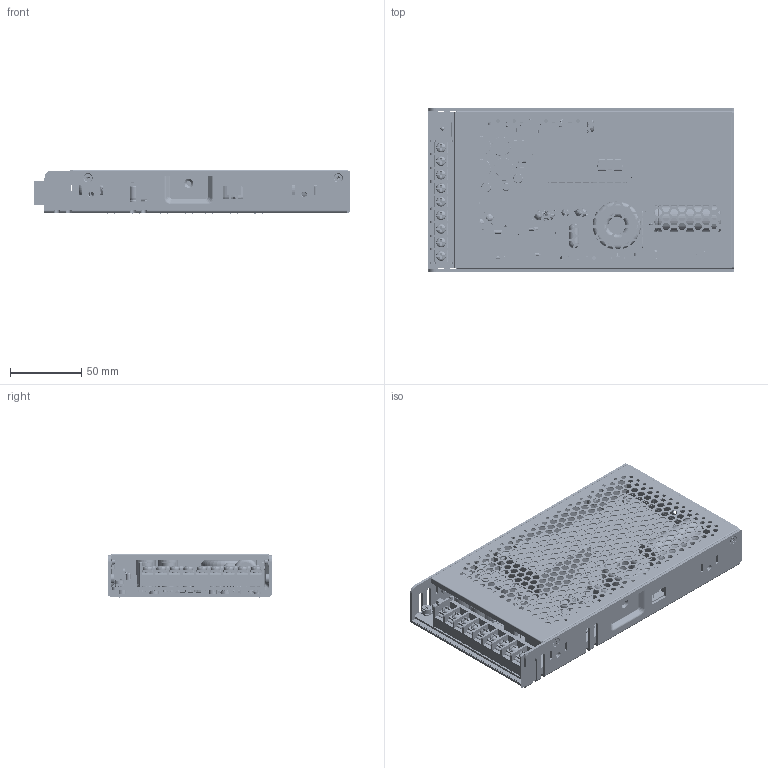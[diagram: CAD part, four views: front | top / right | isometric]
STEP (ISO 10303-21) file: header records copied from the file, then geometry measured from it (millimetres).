
FILE_DESCRIPTION((''),'2;1');
FILE_NAME('ERS200CW_P2-20250731','2025-07-31T',('Administrator'),(''),'PRO/ENGINEER BY PARAMETRIC TECHNOLOGY CORPORATION, 2014090','PRO/ENGINEER BY PARAMETRIC TECHNOLOGY CORPORATION, 2014090','');
FILE_SCHEMA(('CONFIG_CONTROL_DESIGN'));
Products named in the file (564): GW-PB350AW-BOTTOM_15_7; LZ_3X6_2_6_A; GW-ICPS350W24AA-BOTTOM_ASM_4_AS; PRT0212_2_A; ASM1269_ASM_1_ASM_A; MANIFOLD_SOLID_BREP_15524_1_A; MANIFOLD_SOLID_BREP_16245_1_A; ASM1271_ASM_1_ASM_A; ASM1270_ASM_1_ASM_A; MANIFOLD_SOLID_BREP_122681_2_A; MANIFOLD_SOLID_BREP_123402_2_A; DPAK_ASM_2_ASM_A; ASM1272_ASM_1_ASM_A; DPAK_ASM_2_ASM1_A; ASM1273_ASM_1_ASM_A; MANIFOLD_SOLID_BREP_20172_1_A; _X2_56FE5757_X0__06_A; MANIFOLD_SOLID_BREP_20454_1_A; ASM1275_ASM_1_ASM_A; ASM1274_ASM_1_ASM_A; MANIFOLD_SOLID_BREP_26347_1_A; MANIFOLD_SOLID_BREP_26629_1_A; ASM1277_ASM_1_ASM_A; ASM1276_ASM_1_ASM_A; MANIFOLD_SOLID_BREP_32953_1_A; MANIFOLD_SOLID_BREP_33340_1_A; S1-59307; S1-59308; _X2_56FE5757_X0__01_A; MANIFOLD_SOLID_BREP_33727_1_A; MANIFOLD_SOLID_BREP_44047_1_A; ASM1279_ASM_1_ASM_A; ASM1278_ASM_1_ASM_A; _X2_56FE5757_X0__04_A; S2-37185_3_A; S1-37477_3_A; R0805_ASM_3_ASM_A; ASM1280_ASM_1_ASM_A; PRT0213_1_A; Q101_ASM_5_ASM_A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
Assembly tree (947 placements, depth 10):
  ERS200CW_P2-20250731
    GSP350W_A
      GW-ICPS350W24AA-BOTTOM_ASM_4_AS
        GW-PB350AW-BOTTOM_15_7
        LZ_3X6_2_6_A  x5
      PCBA-GW-ICPS350W24AA_ASM_11_ASM
        GW-GSP350WV0120240601_ASM_1_ASM
          ASM1268_ASM_2_ASM_A
            ASM1269_ASM_1_ASM_A
              PRT0212_2_A
            ASM1270_ASM_1_ASM_A
              ASM1271_ASM_1_ASM_A
                MANIFOLD_SOLID_BREP_15524_1_A
                MANIFOLD_SOLID_BREP_16245_1_A
            ASM1272_ASM_1_ASM_A
              DPAK_ASM_2_ASM_A
                MANIFOLD_SOLID_BREP_122681_2_A
                MANIFOLD_SOLID_BREP_123402_2_A
            ASM1273_ASM_1_ASM_A
              DPAK_ASM_2_ASM1_A
                MANIFOLD_SOLID_BREP_122681_2_A
                MANIFOLD_SOLID_BREP_123402_2_A
            ASM1274_ASM_1_ASM_A
              ASM1275_ASM_1_ASM_A
                MANIFOLD_SOLID_BREP_20172_1_A
                MANIFOLD_SOLID_BREP_20454_1_A
                  _X2_56FE5757_X0__06_A
            ASM1276_ASM_1_ASM_A
              ASM1277_ASM_1_ASM_A
                MANIFOLD_SOLID_BREP_26347_1_A
                MANIFOLD_SOLID_BREP_26629_1_A
            ASM1278_ASM_1_ASM_A
              ASM1279_ASM_1_ASM_A
                MANIFOLD_SOLID_BREP_32953_1_A
                MANIFOLD_SOLID_BREP_33340_1_A
                MANIFOLD_SOLID_BREP_33727_1_A
                  _X2_56FE5757_X0__01_A
                MANIFOLD_SOLID_BREP_44047_1_A
            ASM1280_ASM_1_ASM_A
              R0805_ASM_3_ASM_A
                S2-37185_3_A
                  _X2_56FE5757_X0__04_A
                S1-37477_3_A
            Q101_ASM_5_ASM_A
              PRT0213_1_A
            ASM1281_ASM_1_ASM_A
              PRT0214_1_A
            C243_ASM_1_ASM_A
              PRT0215_1_A
            C242_ASM_1_ASM_A
              CAP-0805-H1_2_3_A
            ASM1282_ASM_1_ASM_A
              ASM1283_ASM_1_ASM_A
                MANIFOLD_SOLID_BREP_51027_1_A
                MANIFOLD_SOLID_BREP_51309_1_A
            ASM1284_ASM_1_ASM_A
              R0805_ASM_3_ASM1_A
                S2-37185_3_A
                  _X2_56FE5757_X0__04_A
                S1-37477_3_A
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Bounding box: 222.62 x 118.01 x 30.88 mm (x, y, z)
Volume: 222416.8 mm3; surface area: 279702.2 mm2
Topology: 494 solids, 4728 shells, 23818 faces, 72697 edges, 54975 vertices
Faces by surface type: plane 12218, extrusion 7987, cylinder 2029, torus 565, sphere 507, bspline 331, cone 177, revolution 4
Entity records: 603444 total; most frequent: CARTESIAN_POINT 159558, DIRECTION 58639, ORIENTED_EDGE 52221, PRESENTATION_STYLE_ASSIGNMENT 37966, STYLED_ITEM 37966, EDGE_CURVE 35518, CURVE_STYLE 34264, VERTEX_POINT 29377
